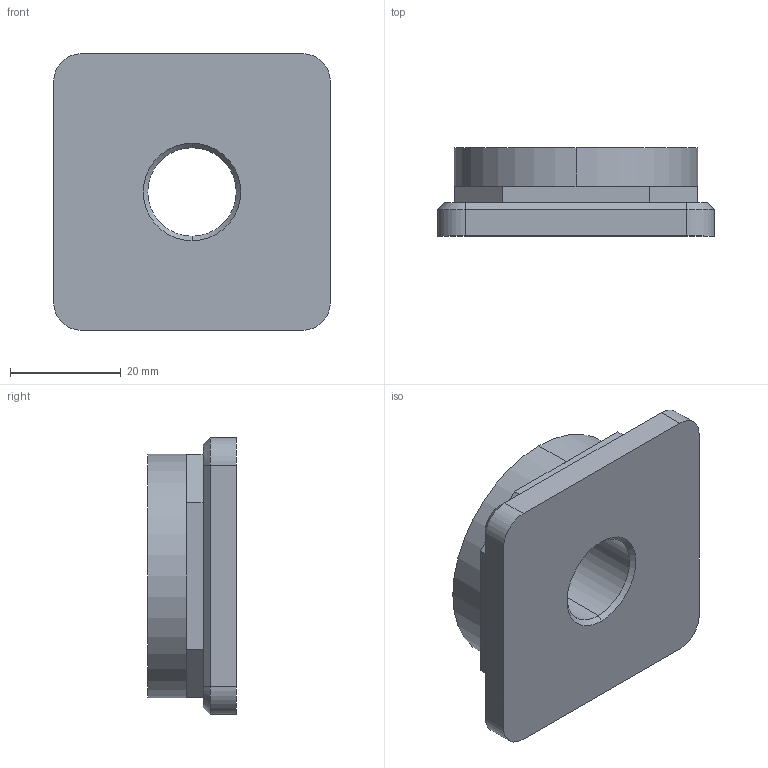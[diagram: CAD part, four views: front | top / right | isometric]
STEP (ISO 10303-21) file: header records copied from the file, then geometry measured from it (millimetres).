
FILE_DESCRIPTION (( 'STEP AP203' ), '1' );
FILE_NAME ('34670.W0053.step', '2017-06-26T08:14:27', ( 'User' ), ( '' ), 'SwSTEP 2.0', 'SolidWorks 2009', '' );
FILE_SCHEMA (( 'CONFIG_CONTROL_DESIGN' ));
Length unit declared in the file: millimetre
Products named in the file (1): 34670.W0053
Bounding box: 50 x 16 x 50 mm (x, y, z)
Volume: 27453.5 mm3; surface area: 7750.3 mm2
Topology: 1 solids, 1 shells, 39 faces, 90 edges, 54 vertices
Faces by surface type: plane 23, cone 8, cylinder 8
Entity records: 1167 total; most frequent: DIRECTION 196, CARTESIAN_POINT 184, ORIENTED_EDGE 180, EDGE_CURVE 90, AXIS2_PLACEMENT_3D 66, LINE 64, VECTOR 64, VERTEX_POINT 54
